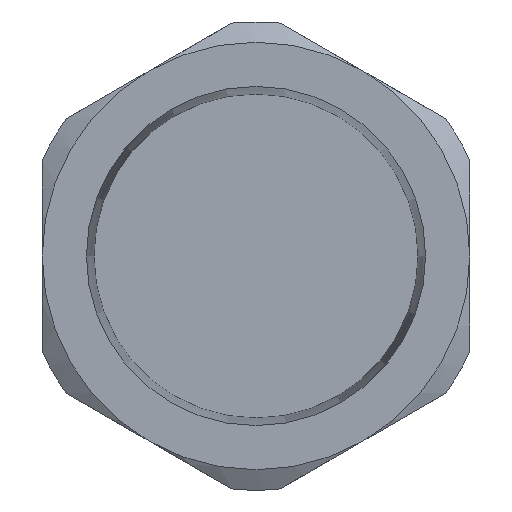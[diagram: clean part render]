
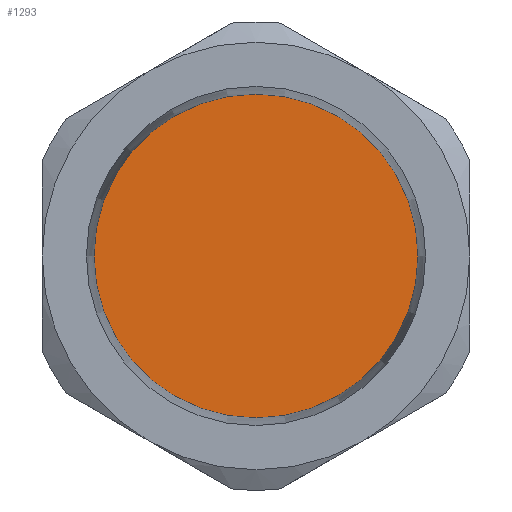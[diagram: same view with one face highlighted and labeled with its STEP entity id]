
A CAD part, left-side view. The second image highlights one B-rep face of the part: STEP entity #1293.
In plain terms, the highlighted planar face has unit normal (-1, 0, 0).
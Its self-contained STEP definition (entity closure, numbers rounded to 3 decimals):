
#211=PLANE($,#1411);
#304=FACE_OUTER_BOUND($,#404,.T.);
#404=EDGE_LOOP($,(#924));
#518=CIRCLE($,#1410,7.956);
#604=VERTEX_POINT($,#2024);
#726=EDGE_CURVE($,#604,#604,#518,.T.);
#924=ORIENTED_EDGE($,*,*,#726,.T.);
#1293=ADVANCED_FACE($,(#304),#211,.T.);
#1410=AXIS2_PLACEMENT_3D($,#2025,#1626,#1627);
#1411=AXIS2_PLACEMENT_3D($,#2026,#1628,#1629);
#1626=DIRECTION('center_axis',(-1.,0.,0.));
#1627=DIRECTION('ref_axis',(0.,-1.,0.));
#1628=DIRECTION('center_axis',(-1.,0.,0.));
#1629=DIRECTION('ref_axis',(0.,-1.,0.));
#2024=CARTESIAN_POINT('',(-10.9,7.956,0.));
#2025=CARTESIAN_POINT('Origin',(-10.9,0.,0.));
#2026=CARTESIAN_POINT('Origin',(-10.9,0.,0.));
